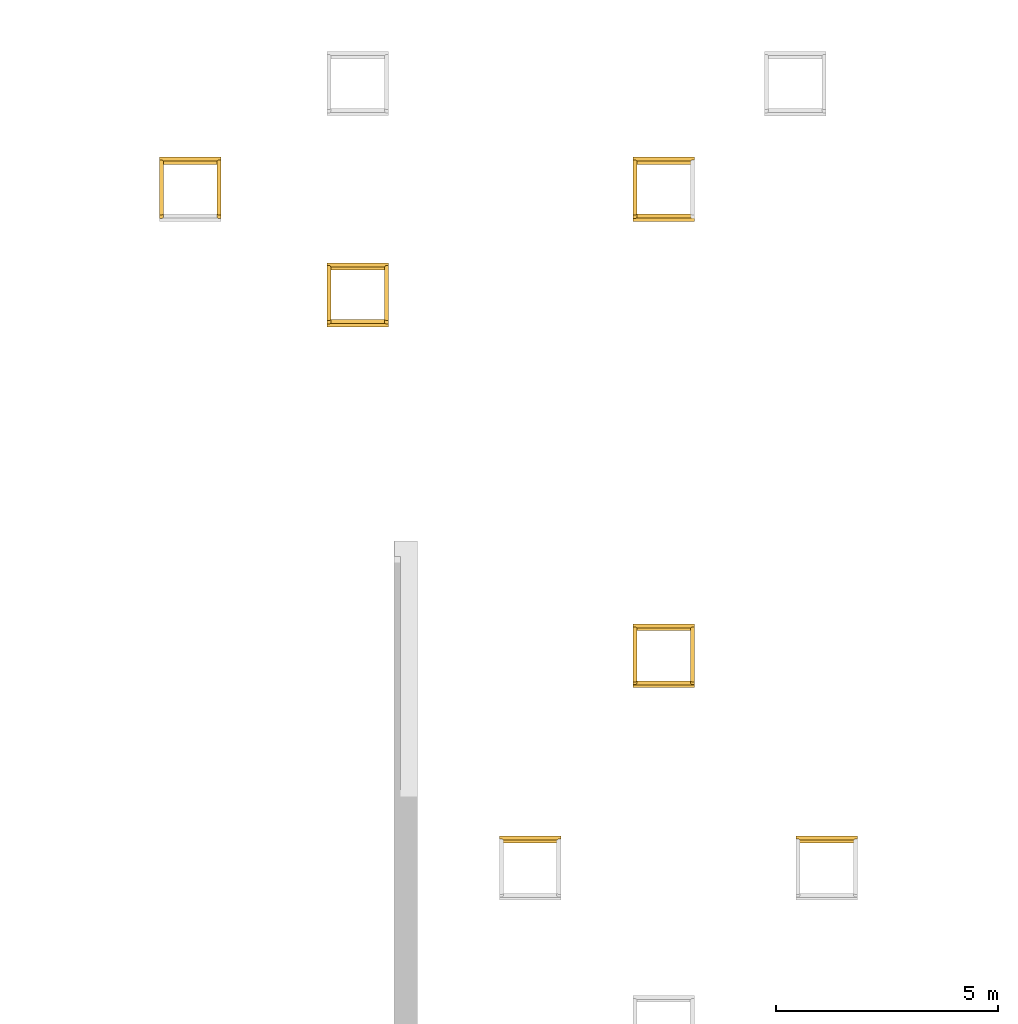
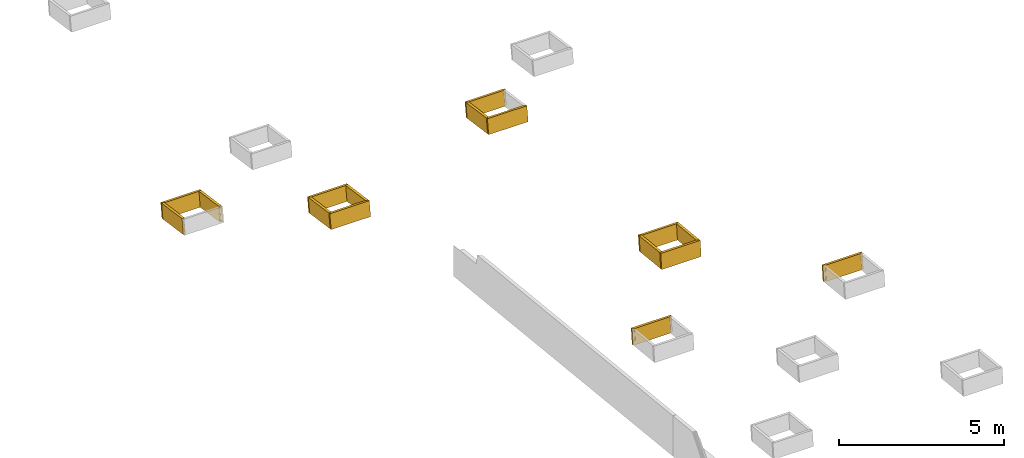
# One storey, part 19 of 23: 16 coverings.
"""IFC2X3 building model written with IfcOpenShell, lengths in millimetres."""

from ifc_helpers import new_model, entity, si_unit, converted_unit, derived_unit, money_unit, direction, frame, origin_with_axes, place, context, subcontext, project, spatial, faceted_brep, material, material_list, type_object, element, save


model = new_model("IFC2X3")

# Units and contexts
model_context = context("Model", 3, precision=0.01, world=origin_with_axes(), true_north=direction((0.0, 1.0)))
body_context = subcontext(model_context, "Body", "Model", "MODEL_VIEW")
ifc_project = project(units=[si_unit("LENGTHUNIT", "METRE", prefix="MILLI"), si_unit("AREAUNIT", "SQUARE_METRE"), si_unit("VOLUMEUNIT", "CUBIC_METRE"), converted_unit("PLANEANGLEUNIT", "DEGREE", entity("IfcPlaneAngleMeasure", 0.0174532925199), si_unit("PLANEANGLEUNIT", "RADIAN"), dimensions=[0, 0, 0, 0, 0, 0, 0]), si_unit("SOLIDANGLEUNIT", "STERADIAN"), money_unit("EUR"), converted_unit("TIMEUNIT", "Year", entity("IfcTimeMeasure", 31556926.0), si_unit("TIMEUNIT", "SECOND"), dimensions=[0, 0, 1, 0, 0, 0, 0]), si_unit("MASSUNIT", "GRAM", prefix="KILO"), si_unit("THERMODYNAMICTEMPERATUREUNIT", "DEGREE_CELSIUS"), si_unit("LUMINOUSINTENSITYUNIT", "LUMEN"), si_unit("ENERGYUNIT", "JOULE", prefix="MEGA"), derived_unit("THERMALCONDUCTANCEUNIT", [(si_unit("POWERUNIT", "WATT"), 1), (si_unit("LENGTHUNIT", "METRE"), -1), (si_unit("THERMODYNAMICTEMPERATUREUNIT", "KELVIN"), -1)]), derived_unit("SPECIFICHEATCAPACITYUNIT", [(si_unit("ENERGYUNIT", "JOULE"), 1), (si_unit("MASSUNIT", "GRAM", prefix="KILO"), -1), (si_unit("THERMODYNAMICTEMPERATUREUNIT", "KELVIN"), -1)]), derived_unit("MASSDENSITYUNIT", [(si_unit("MASSUNIT", "GRAM", prefix="KILO"), 1), (si_unit("VOLUMEUNIT", "CUBIC_METRE"), -1)])], contexts=[model_context])

# Site, building, storey
site_placement = place(None, origin_with_axes())
site = spatial("IfcSite", under=ifc_project, at=site_placement, Name="L.Koidula tn 11b", CompositionType="ELEMENT")
building_placement = place(site_placement, origin_with_axes())
building = spatial("IfcBuilding", under=site, at=building_placement, Name="Rakvere Riigigümnaasium", CompositionType="ELEMENT")
storey_placement = place(building_placement, frame((0.0, 0.0, 7440.0), z_axis=(0.0, 0.0, 1.0), x_axis=(1.0, 0.0, 0.0)))
storey = spatial("IfcBuildingStorey", under=building, at=storey_placement, Name="3.korrus +7,44", CompositionType="ELEMENT", Elevation=7440.0)

# Coverings
ifc_material_1 = material(Name="SKR-02_Kipsplaat")
ifc_material_2 = material(Name="mineraalvill+karkass")
ifc_material_list_1 = material_list([ifc_material_1, ifc_material_1, ifc_material_2])
covering_type = type_object("IfcCoveringType", Name="SA-2xkips 91", PredefinedType="NOTDEFINED")
covering_1_placement = place(storey_placement, frame((45308.9710298, 37654.4230684, 732.914592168), z_axis=(0.0, 0.0, 1.0), x_axis=(-1.0, 0.0, 0.0)))
element("IfcCovering", 1, at=covering_1_placement, inside=storey, type_object=covering_type, material=ifc_material_list_1, Name="Ava-pinnakate", PredefinedType="NOTDEFINED", context=body_context, shape_type="Brep", body=[
    faceted_brep([(1212.48952878, -72.5823962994, 570.990718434), (-12.5103865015, -72.5823962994, 570.990718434), (-12.5019104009, -13.3494319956, 7.42670834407), (1212.4980854, -13.3494319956, 7.42670834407), (-12.5086075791, -60.1508726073, 572.297324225), (1212.4913246, -60.1508726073, 572.297324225), (-12.5001314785, -0.917908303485, 8.73331413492), (1212.49988122, -0.917908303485, 8.73331413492)], [[[0, 1, 2, 3]], [[4, 1, 0, 5]], [[1, 4, 6, 2]], [[7, 3, 2, 6]], [[5, 0, 3, 7]], [[4, 5, 7, 6]]]),
    faceted_brep([(1224.98773309, -85.0139199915, 569.684112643), (-25.0121655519, -85.0139199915, 569.684112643), (-25.0036894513, -25.7809556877, 6.12010255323), (1224.99628971, -25.7809556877, 6.12010255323), (-25.0103866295, -72.5823962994, 570.990718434), (1224.98952891, -72.5823962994, 570.990718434), (-25.0019105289, -13.3494319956, 7.42670834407), (1224.99808553, -13.3494319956, 7.42670834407)], [[[0, 1, 2, 3]], [[4, 1, 0, 5]], [[1, 4, 6, 2]], [[7, 3, 2, 6]], [[5, 0, 3, 7]], [[4, 5, 7, 6]]]),
    faceted_brep([(1290.97825183, -150.652365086, 562.785234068), (-91.0215589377, -150.652365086, 562.785234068), (-91.0130945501, -91.5012534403, 0.0), (1290.98679663, -91.5012534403, 0.0), (-91.0121662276, -85.0139199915, 569.684112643), (1290.98773377, -85.0139199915, 569.684112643), (-91.003690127, -25.7809556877, 6.12010255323), (-91.0120225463, -84.0098418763, 0.0), (1290.98787882, -84.0098418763, 0.0), (1290.9962904, -25.7809556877, 6.12010255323)], [[[0, 1, 2, 3]], [[4, 1, 0, 5]], [[1, 4, 6, 7, 2]], [[2, 7, 8, 3]], [[5, 0, 3, 8, 9]], [[4, 5, 9, 6]], [[9, 8, 7, 6]]]),
])
covering_2_placement = place(storey_placement, frame((38632.9795489, 37654.3237413, 733.025929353), z_axis=(0.0, 0.0, 1.0), x_axis=(-1.0, 0.0, 0.0)))
element("IfcCovering", 2, at=covering_2_placement, inside=storey, type_object=covering_type, material=ifc_material_list_1, Name="Ava-pinnakate", PredefinedType="NOTDEFINED", context=body_context, shape_type="Brep", body=[
    faceted_brep([(1212.48953029, -72.5719074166, 570.890923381), (-12.5103850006, -72.5719074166, 570.890923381), (-12.5019089, -13.3389431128, 7.32691329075), (1212.49808691, -13.3389431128, 7.32691329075), (-12.5086060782, -60.1403837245, 572.197529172), (1212.49132611, -60.1403837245, 572.197529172), (-12.5001299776, -0.90741942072, 8.63351908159), (1212.49988274, -0.90741942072, 8.63351908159)], [[[0, 1, 2, 3]], [[4, 1, 0, 5]], [[1, 4, 6, 2]], [[7, 3, 2, 6]], [[5, 0, 3, 7]], [[4, 5, 7, 6]]]),
    faceted_brep([(1224.9877346, -85.0034311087, 569.58431759), (-25.0121640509, -85.0034311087, 569.58431759), (-25.0036879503, -25.7704668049, 6.0203074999), (1224.99629122, -25.7704668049, 6.0203074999), (-25.0103851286, -72.5719074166, 570.890923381), (1224.98953042, -72.5719074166, 570.890923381), (-25.001909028, -13.3389431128, 7.32691329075), (1224.99808705, -13.3389431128, 7.32691329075)], [[[0, 1, 2, 3]], [[4, 1, 0, 5]], [[1, 4, 6, 2]], [[7, 3, 2, 6]], [[5, 0, 3, 7]], [[4, 5, 7, 6]]]),
    faceted_brep([(1290.97825335, -150.641876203, 562.685439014), (-91.0215574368, -150.641876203, 562.685439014), (-91.0130945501, -91.5012534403, 0.0), (1290.98679663, -91.5012534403, 0.0), (-91.0121647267, -85.0034311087, 569.58431759), (1290.98773529, -85.0034311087, 569.58431759), (-91.0036886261, -25.7704668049, 6.0203074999), (-91.0118851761, -83.0498664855, 0.0), (1290.9880175, -83.0498664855, 0.0), (1290.99629191, -25.7704668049, 6.0203074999)], [[[0, 1, 2, 3]], [[4, 1, 0, 5]], [[1, 4, 6, 7, 2]], [[2, 7, 8, 3]], [[5, 0, 3, 8, 9]], [[4, 5, 9, 6]], [[9, 8, 7, 6]]]),
])
covering_3_placement = place(storey_placement, frame((34754.6108164, 50531.4179768, -848.801225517), z_axis=(0.0, 0.0, 1.0), x_axis=(-1.0, 0.0, 0.0)))
element("IfcCovering", 3, at=covering_3_placement, inside=storey, type_object=covering_type, material=ifc_material_list_1, Name="Ava-pinnakate", PredefinedType="NOTDEFINED", context=body_context, shape_type="Brep", body=[
    faceted_brep([(-12.5, -1.46099309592, 10.26547255), (-12.5, -13.8362888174, 8.5042071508), (-12.5, -91.05850016, 551.09574506), (-12.5, -78.6832044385, 552.85701046), (1212.5, -13.8362888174, 8.50420715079), (1212.5, -1.46099309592, 10.26547255), (1212.5, -91.05850016, 551.09574506), (1212.5, -78.6832044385, 552.85701046)], [[[0, 1, 2, 3]], [[4, 1, 0, 5]], [[1, 4, 6, 2]], [[7, 3, 2, 6]], [[5, 0, 3, 7]], [[4, 5, 7, 6]]]),
    faceted_brep([(-25.0, -13.8362888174, 8.50420715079), (-25.0, -26.2115845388, 6.74294175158), (-25.0, -103.433795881, 549.334479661), (-25.0, -91.05850016, 551.09574506), (1225.0, -26.2115845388, 6.74294175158), (1225.0, -13.8362888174, 8.5042071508), (1225.0, -103.433795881, 549.334479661), (1225.0, -91.05850016, 551.09574506)], [[[0, 1, 2, 3]], [[4, 1, 0, 5]], [[1, 4, 6, 2]], [[7, 3, 2, 6]], [[5, 0, 3, 7]], [[4, 5, 7, 6]]]),
    faceted_brep([(-91.0, -26.2115845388, 6.74294175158), (-91.0, -73.5899627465, 0.0), (-91.0, -91.9169954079, 0.0), (-91.0, -168.775357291, 540.034998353), (-91.0, -103.433795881, 549.334479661), (1291.0, -73.5899627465, 0.0), (1291.0, -26.2115845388, 6.74294175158), (1291.0, -91.9169954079, 0.0), (1291.0, -168.775357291, 540.034998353), (1291.0, -103.433795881, 549.334479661)], [[[0, 1, 2, 3, 4]], [[5, 1, 0, 6]], [[1, 5, 7, 2]], [[7, 8, 3, 2]], [[9, 4, 3, 8]], [[6, 0, 4, 9]], [[5, 6, 9, 8, 7]]]),
])
covering_4_placement = place(storey_placement, frame((33554.6108164, 49343.7086412, -680.805633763), z_axis=(0.0, 0.0, 1.0), x_axis=(1.0, 0.0, 0.0)))
element("IfcCovering", 4, at=covering_4_placement, inside=storey, type_object=covering_type, material=ifc_material_list_1, Name="Ava-pinnakate", PredefinedType="NOTDEFINED", context=body_context, shape_type="Brep", body=[
    faceted_brep([(1212.5, -10.7691605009, 13.0465596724), (1212.5, 1.60613522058, 11.2852942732), (1212.5, 78.8283465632, 553.876832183), (1212.5, 66.4530508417, 555.638097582), (-12.5, 1.60613522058, 11.2852942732), (-12.5, -10.7691605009, 13.0465596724), (-12.5, 78.8283465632, 553.876832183), (-12.5, 66.4530508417, 555.638097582)], [[[0, 1, 2, 3]], [[4, 1, 0, 5]], [[1, 4, 6, 2]], [[7, 3, 2, 6]], [[5, 0, 3, 7]], [[4, 5, 7, 6]]]),
    faceted_brep([(1225.0, -23.1444562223, 14.8078250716), (1225.0, -10.7691605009, 13.0465596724), (1225.0, 66.4530508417, 555.638097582), (1225.0, 54.0777551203, 557.399362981), (-25.0, -10.7691605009, 13.0465596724), (-25.0, -23.1444562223, 14.8078250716), (-25.0, 66.4530508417, 555.638097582), (-25.0, 54.0777551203, 557.399362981)], [[[0, 1, 2, 3]], [[4, 1, 0, 5]], [[1, 4, 6, 2]], [[7, 3, 2, 6]], [[5, 0, 3, 7]], [[4, 5, 7, 6]]]),
    faceted_brep([(1291.0, -88.4860176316, 24.1073063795), (1291.0, -23.1444562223, 14.8078250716), (1291.0, 54.0777551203, 557.399362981), (1291.0, -11.263806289, 566.698844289), (-91.0, -23.1444562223, 14.8078250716), (-91.0, -88.4860176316, 24.1073063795), (-91.0, 54.0777551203, 557.399362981), (-91.0, -11.263806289, 566.698844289)], [[[0, 1, 2, 3]], [[4, 1, 0, 5]], [[1, 4, 6, 2]], [[7, 3, 2, 6]], [[5, 0, 3, 7]], [[4, 5, 7, 6]]]),
])
covering_5_placement = place(storey_placement, frame((30993.1258676, 52900.188567, -1237.23479765), z_axis=(0.0, 0.0, 1.0), x_axis=(-1.0, 0.0, 0.0)))
element("IfcCovering", 5, at=covering_5_placement, inside=storey, type_object=covering_type, material=ifc_material_list_1, Name="Ava-pinnakate", PredefinedType="NOTDEFINED", context=body_context, shape_type="Brep", body=[
    faceted_brep([(1212.48582587, -98.2156813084, 601.384720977), (-12.5140545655, -98.2156813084, 601.384720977), (-12.5030042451, -20.9934699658, 58.7931830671), (1212.49698116, -20.9934699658, 58.7931830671), (-12.5122836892, -85.8403855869, 603.145986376), (1212.48761357, -85.8403855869, 603.145986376), (-12.5012333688, -8.61817424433, 60.5544484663), (1212.49876886, -8.61817424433, 60.5544484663)], [[[0, 1, 2, 3]], [[4, 1, 0, 5]], [[1, 4, 6, 2]], [[7, 3, 2, 6]], [[5, 0, 3, 7]], [[4, 5, 7, 6]]]),
    faceted_brep([(1224.9840383, -110.59097703, 599.623455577), (-25.0158255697, -110.59097703, 599.623455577), (-25.0047752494, -33.3687656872, 57.0319176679), (1224.9951936, -33.3687656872, 57.0319176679), (-25.0140546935, -98.2156813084, 601.384720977), (1224.985826, -98.2156813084, 601.384720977), (-25.0030043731, -20.9934699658, 58.7931830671), (1224.99698129, -20.9934699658, 58.7931830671)], [[[0, 1, 2, 3]], [[4, 1, 0, 5]], [[1, 4, 6, 2]], [[7, 3, 2, 6]], [[5, 0, 3, 7]], [[4, 5, 7, 6]]]),
    faceted_brep([(1290.97459993, -175.932538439, 590.323974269), (-91.0251764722, -175.932538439, 590.323974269), (-91.0141261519, -98.7103270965, 47.73243636), (1290.98575523, -98.7103270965, 47.73243636), (-91.0158262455, -110.59097703, 599.623455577), (1290.98403899, -110.59097703, 599.623455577), (-91.0047759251, -33.3687656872, 57.0319176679), (1290.99519428, -33.3687656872, 57.0319176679)], [[[0, 1, 2, 3]], [[4, 1, 0, 5]], [[1, 4, 6, 2]], [[7, 3, 2, 6]], [[5, 0, 3, 7]], [[4, 5, 7, 6]]]),
])
covering_6_placement = place(storey_placement, frame((29793.1258539, 52900.188567, -1313.32276021), z_axis=(0.0, 0.0, 1.0), x_axis=(-0.000144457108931, -0.999999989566, 0.0)))
element("IfcCovering", 6, at=covering_6_placement, inside=storey, type_object=covering_type, material=ifc_material_list_1, Name="Ava-pinnakate", PredefinedType="NOTDEFINED", context=body_context, shape_type="Brep", body=[
    faceted_brep([(-85.8385807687, -12.5, 679.233948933), (-85.8403864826, 4.73942662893e-07, 679.233948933), (-8.61817433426, 4.75814943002e-08, 136.642411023), (-8.61636862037, -12.5, 136.642411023), (1101.72381935, 1.52517998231e-08, 848.24936241), (1101.72562507, -12.5, 848.24936241), (1178.9460315, -9.98063853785e-07, 305.657824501), (1178.94783722, -12.5, 305.657824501)], [[[0, 1, 2, 3]], [[4, 1, 0, 5]], [[1, 4, 6, 2]], [[7, 3, 2, 6]], [[5, 0, 3, 7]], [[4, 5, 7, 6]]]),
    faceted_brep([(-98.2120709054, -24.9999999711, 677.472683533), (-98.2138766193, -12.5, 677.472683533), (-20.9916644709, -12.5, 134.881145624), (-20.989858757, -25.0000005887, 134.881145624), (1114.10092092, -12.5, 850.010627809), (1114.10272663, -24.9999999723, 850.010627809), (1191.32313307, -12.5, 307.4190899), (1191.32493878, -24.9999987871, 307.4190899)], [[[0, 1, 2, 3]], [[4, 1, 0, 5]], [[1, 4, 6, 2]], [[7, 3, 2, 6]], [[5, 0, 3, 7]], [[4, 5, 7, 6]]]),
    faceted_brep([(-110.577832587, -91.0, 675.711418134), (-110.587366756, -24.9999999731, 675.711418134), (-33.3651546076, -25.0000005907, 133.119880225), (-33.3556204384, -91.0, 133.119880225), (1126.47802248, -24.9999999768, 851.771893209), (1126.48755665, -91.0, 851.771893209), (1203.70023463, -24.999998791, 309.180355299), (1203.7097688, -91.0, 309.180355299)], [[[0, 1, 2, 3]], [[4, 1, 0, 5]], [[1, 4, 6, 2]], [[7, 3, 2, 6]], [[5, 0, 3, 7]], [[4, 5, 7, 6]]]),
])
ifc_material_list_2 = material_list([ifc_material_2, ifc_material_1, ifc_material_1])
covering_7_placement = place(storey_placement, frame((30993.1258676, 52900.188567, -1313.32276021), z_axis=(0.0, 0.0, 1.0), x_axis=(-0.000143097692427, -0.999999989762, 0.0)))
element("IfcCovering", 7, at=covering_7_placement, inside=storey, type_object=covering_type, material=ifc_material_list_2, Name="Ava-pinnakate", PredefinedType="NOTDEFINED", context=body_context, shape_type="Brep", body=[
    faceted_brep([(-110.594555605, 25.0000004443, 675.711418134), (-110.604000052, 91.0, 675.711418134), (-33.381787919, 91.0, 133.119880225), (-33.3723434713, 25.0000006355, 133.119880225), (1126.46138895, 91.0, 851.771893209), (1126.47083339, 25.0000000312, 851.771893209), (1203.68360108, 91.0, 309.180355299), (1203.69304553, 25.0000004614, 309.180355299)], [[[0, 1, 2, 3]], [[4, 1, 0, 5]], [[1, 4, 6, 2]], [[7, 3, 2, 6]], [[5, 0, 3, 7]], [[4, 5, 7, 6]]]),
    faceted_brep([(-98.2174710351, 12.5, 677.472683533), (-98.2192597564, 25.0000004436, 677.472683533), (-20.9970476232, 25.0000006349, 134.881145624), (-20.9952589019, 12.5, 134.881145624), (1114.09553755, 25.0000000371, 850.010627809), (1114.09732627, 12.5, 850.010627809), (1191.31774968, 25.0000004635, 307.4190899), (1191.3195384, 12.5, 307.4190899)], [[[0, 1, 2, 3]], [[4, 1, 0, 5]], [[1, 4, 6, 2]], [[7, 3, 2, 6]], [[5, 0, 3, 7]], [[4, 5, 7, 6]]]),
    faceted_brep([(-85.8403864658, 0.0, 679.233948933), (-85.8420887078, 12.5, 679.23396124), (-8.61837712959, 12.5, 136.642636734), (-8.61817433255, 0.0, 136.642411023), (1101.72206392, 12.5, 848.249367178), (1101.72381914, 0.0, 848.24936241), (1178.94573955, 12.5, 305.658037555), (1178.94603127, 0.0, 305.657824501)], [[[0, 1, 2, 3]], [[4, 1, 0, 5]], [[1, 4, 6, 2]], [[7, 3, 2, 6]], [[5, 0, 3, 7]], [[4, 5, 7, 6]]]),
])
covering_8_placement = place(storey_placement, frame((41636.541672, 52900.1885928, -1237.23480128), z_axis=(0.0, 0.0, 1.0), x_axis=(-1.0, 0.0, 0.0)))
element("IfcCovering", 8, at=covering_8_placement, inside=storey, type_object=covering_type, material=ifc_material_list_1, Name="Ava-pinnakate", PredefinedType="NOTDEFINED", context=body_context, shape_type="Brep", body=[
    faceted_brep([(1212.48582587, -98.215681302, 601.384720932), (-12.5140545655, -98.215681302, 601.384720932), (-12.5030042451, -20.9934699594, 58.793183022), (1212.49698116, -20.9934699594, 58.793183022), (-12.5122836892, -85.8403855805, 603.145986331), (1212.48761357, -85.8403855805, 603.145986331), (-12.5012333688, -8.61817423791, 60.5544484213), (1212.49876886, -8.61817423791, 60.5544484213)], [[[0, 1, 2, 3]], [[4, 1, 0, 5]], [[1, 4, 6, 2]], [[7, 3, 2, 6]], [[5, 0, 3, 7]], [[4, 5, 7, 6]]]),
    faceted_brep([(1224.9840383, -110.590977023, 599.623455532), (-25.0158255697, -110.590977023, 599.623455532), (-25.0047752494, -33.3687656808, 57.0319176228), (1224.9951936, -33.3687656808, 57.0319176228), (-25.0140546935, -98.215681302, 601.384720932), (1224.985826, -98.215681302, 601.384720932), (-25.0030043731, -20.9934699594, 58.793183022), (1224.99698129, -20.9934699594, 58.793183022)], [[[0, 1, 2, 3]], [[4, 1, 0, 5]], [[1, 4, 6, 2]], [[7, 3, 2, 6]], [[5, 0, 3, 7]], [[4, 5, 7, 6]]]),
    faceted_brep([(1290.97459993, -175.932538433, 590.323974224), (-91.0251764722, -175.932538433, 590.323974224), (-91.0141261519, -98.7103270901, 47.7324363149), (1290.98575523, -98.7103270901, 47.7324363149), (-91.0158262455, -110.590977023, 599.623455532), (1290.98403899, -110.590977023, 599.623455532), (-91.0047759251, -33.3687656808, 57.0319176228), (1290.99519428, -33.3687656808, 57.0319176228)], [[[0, 1, 2, 3]], [[4, 1, 0, 5]], [[1, 4, 6, 2]], [[7, 3, 2, 6]], [[5, 0, 3, 7]], [[4, 5, 7, 6]]]),
])
covering_9_placement = place(storey_placement, frame((40436.3693982, 51707.7235593, -1102.65448535), z_axis=(0.0, 0.0, 1.0), x_axis=(1.0, 0.0, 0.0)))
element("IfcCovering", 9, at=covering_9_placement, inside=storey, type_object=covering_type, material=ifc_material_list_1, Name="Ava-pinnakate", PredefinedType="NOTDEFINED", context=body_context, shape_type="Brep", body=[
    faceted_brep([(-12.4868919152, 90.7412257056, 637.581083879), (1212.51461973, 90.7412257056, 637.581083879), (1212.50356941, 13.519014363, 94.9895459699), (-12.4980472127, 13.519014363, 94.9895459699), (1212.51284886, 78.3659299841, 639.342349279), (-12.4886796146, 78.3659299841, 639.342349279), (1212.50179854, 1.14371864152, 96.7508113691), (-12.4998349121, 1.14371864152, 96.7508113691)], [[[0, 1, 2, 3]], [[4, 1, 0, 5]], [[1, 4, 6, 2]], [[7, 3, 2, 6]], [[5, 0, 3, 7]], [[4, 5, 7, 6]]]),
    faceted_brep([(-24.988679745, 78.3659299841, 639.342349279), (1225.01284899, 78.3659299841, 639.342349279), (1225.00179867, 1.14371864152, 96.7508113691), (-24.9998350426, 1.14371864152, 96.7508113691), (1225.01107811, 65.9906342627, 641.103614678), (-24.9904674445, 65.9906342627, 641.103614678), (1225.00002779, -11.2315770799, 98.5120767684), (-25.001622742, -11.2315770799, 98.5120767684)], [[[0, 1, 2, 3]], [[4, 1, 0, 5]], [[1, 4, 6, 2]], [[7, 3, 2, 6]], [[5, 0, 3, 7]], [[4, 5, 7, 6]]]),
    faceted_brep([(-90.9904681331, 65.9906342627, 641.103614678), (1291.01107879, 65.9906342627, 641.103614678), (1291.00002847, -11.2315770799, 98.5120767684), (-91.0016234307, -11.2315770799, 98.5120767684), (1291.00172856, 0.649072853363, 650.403095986), (-90.9999071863, 0.649072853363, 650.403095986), (1290.99067824, -76.5731384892, 107.811558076), (-91.0110624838, -76.5731384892, 107.811558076)], [[[0, 1, 2, 3]], [[4, 1, 0, 5]], [[1, 4, 6, 2]], [[7, 3, 2, 6]], [[5, 0, 3, 7]], [[4, 5, 7, 6]]]),
])
covering_10_placement = place(storey_placement, frame((40436.5416583, 52900.1885928, -1313.32276384), z_axis=(0.0, 0.0, 1.0), x_axis=(-0.000144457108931, -0.999999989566, 0.0)))
element("IfcCovering", 10, at=covering_10_placement, inside=storey, type_object=covering_type, material=ifc_material_list_1, Name="Ava-pinnakate", PredefinedType="NOTDEFINED", context=body_context, shape_type="Brep", body=[
    faceted_brep([(-85.8385807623, -12.5, 679.233948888), (-85.8403864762, 2.92367019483e-07, 679.233948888), (-8.61817432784, 2.93596258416e-08, 136.642410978), (-8.61636861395, -12.5, 136.642410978), (1101.72381936, 0.0, 848.249362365), (1101.72562508, -12.5, 848.249362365), (1178.94603151, -1.00032337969e-06, 305.657824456), (1178.94783722, -12.5, 305.657824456)], [[[0, 1, 2, 3]], [[4, 1, 0, 5]], [[1, 4, 6, 2]], [[7, 3, 2, 6]], [[5, 0, 3, 7]], [[4, 5, 7, 6]]]),
    faceted_brep([(-98.2120708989, -25.0000006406, 677.472683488), (-98.2138766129, -12.5, 677.472683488), (-20.9916644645, -12.5, 134.881145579), (-20.9898587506, -25.0000006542, 134.881145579), (1114.10092093, -12.5, 850.010627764), (1114.10272664, -25.0000000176, 850.010627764), (1191.32313307, -12.5, 307.419089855), (1191.32493879, -24.999998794, 307.419089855)], [[[0, 1, 2, 3]], [[4, 1, 0, 5]], [[1, 4, 6, 2]], [[7, 3, 2, 6]], [[5, 0, 3, 7]], [[4, 5, 7, 6]]]),
    faceted_brep([(-110.57783258, -91.0, 675.711418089), (-110.587366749, -25.0000006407, 675.711418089), (-33.3651546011, -25.0000006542, 133.11988018), (-33.3556204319, -91.0, 133.11988018), (1126.47802249, -25.0000000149, 851.771893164), (1126.48755666, -91.0, 851.771893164), (1203.70023464, -24.9999987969, 309.180355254), (1203.70976881, -91.0, 309.180355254)], [[[0, 1, 2, 3]], [[4, 1, 0, 5]], [[1, 4, 6, 2]], [[7, 3, 2, 6]], [[5, 0, 3, 7]], [[4, 5, 7, 6]]]),
])
covering_11_placement = place(storey_placement, frame((41636.7140291, 42428.2850036, 231.215416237), z_axis=(0.0, 0.0, 1.0), x_axis=(-1.0, 0.0, 0.0)))
element("IfcCovering", 11, at=covering_11_placement, inside=storey, type_object=covering_type, material=ifc_material_list_1, Name="Ava-pinnakate", PredefinedType="NOTDEFINED", context=body_context, shape_type="Brep", body=[
    faceted_brep([(-12.5001306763, -0.912301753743, 8.67997137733), (-12.5019095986, -13.3438254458, 7.37336558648), (-12.5103856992, -72.5767897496, 570.937375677), (-12.5086067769, -60.1452660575, 572.243981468), (1212.49808621, -13.3438254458, 7.37336558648), (1212.49988203, -0.912301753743, 8.67997137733), (1212.48952959, -72.5767897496, 570.937375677), (1212.49132541, -60.1452660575, 572.243981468)], [[[0, 1, 2, 3]], [[4, 1, 0, 5]], [[1, 4, 6, 2]], [[7, 3, 2, 6]], [[5, 0, 3, 7]], [[4, 5, 7, 6]]]),
    faceted_brep([(-25.0019097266, -13.3438254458, 7.37336558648), (-25.003688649, -25.7753491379, 6.06675979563), (-25.0121647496, -85.0083134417, 569.630769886), (-25.0103858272, -72.5767897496, 570.937375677), (1224.99629052, -25.7753491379, 6.06675979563), (1224.99808634, -13.3438254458, 7.37336558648), (1224.9877339, -85.0083134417, 569.630769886), (1224.98952972, -72.5767897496, 570.937375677)], [[[0, 1, 2, 3]], [[4, 1, 0, 5]], [[1, 4, 6, 2]], [[7, 3, 2, 6]], [[5, 0, 3, 7]], [[4, 5, 7, 6]]]),
    faceted_brep([(-91.0036893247, -25.7753491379, 6.06675979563), (-91.0119491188, -83.4967128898, 0.0), (-91.0130945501, -91.5012534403, 0.0), (-91.0215581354, -150.646758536, 562.73189131), (-91.0121654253, -85.0083134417, 569.630769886), (1290.98795295, -83.4967128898, 0.0), (1290.99629121, -25.7753491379, 6.06675979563), (1290.98679663, -91.5012534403, 0.0), (1290.97825264, -150.646758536, 562.73189131), (1290.98773458, -85.0083134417, 569.630769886)], [[[0, 1, 2, 3, 4]], [[5, 1, 0, 6]], [[1, 5, 7, 2]], [[7, 8, 3, 2]], [[9, 4, 3, 8]], [[6, 0, 4, 9]], [[5, 6, 9, 8, 7]]]),
])
covering_12_placement = place(storey_placement, frame((40436.5417554, 41235.81997, 365.795732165), z_axis=(0.0, 0.0, 1.0), x_axis=(1.0, 0.0, 0.0)))
element("IfcCovering", 12, at=covering_12_placement, inside=storey, type_object=covering_type, material=ifc_material_list_1, Name="Ava-pinnakate", PredefinedType="NOTDEFINED", context=body_context, shape_type="Brep", body=[
    faceted_brep([(1212.49984894, -12.4805214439, 0.840423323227), (1212.50099316, -4.48442765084, 0.0), (1212.50163487, 0.0, 0.0), (1212.51010396, 59.1839698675, 563.097827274), (1212.50832504, 46.75244286, 564.404433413), (-12.5006479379, -4.48442765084, 0.0), (-12.5018030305, -12.4805214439, 0.840423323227), (-12.5000001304, 0.0, 0.0), (-12.4914505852, 59.1839698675, 563.097827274), (-12.4932464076, 46.7524428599, 564.404433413)], [[[0, 1, 2, 3, 4]], [[5, 1, 0, 6]], [[1, 5, 7, 2]], [[7, 8, 3, 2]], [[9, 4, 3, 8]], [[6, 0, 4, 9]], [[5, 6, 9, 8, 7]]]),
    faceted_brep([(1224.99807068, -24.912045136, 2.14702911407), (1224.99984961, -12.4805214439, 0.840423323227), (1225.00832523, 46.75244286, 564.404433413), (1225.00654631, 34.3209191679, 565.711039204), (-25.001801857, -12.4805214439, 0.840423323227), (-25.003597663, -24.912045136, 2.14702911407), (-24.9932464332, 46.7524428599, 564.404433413), (-24.9950422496, 34.3209191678, 565.711039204)], [[[0, 1, 2, 3]], [[4, 1, 0, 5]], [[1, 4, 6, 2]], [[7, 3, 2, 6]], [[5, 0, 3, 7]], [[4, 5, 7, 6]]]),
    faceted_brep([(1290.98867742, -90.5504902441, 9.04590769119), (1290.99807013, -24.912045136, 2.14702911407), (1291.00654623, 34.3209191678, 565.711039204), (1290.99715352, -31.3175268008, 572.609917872), (-91.0035996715, -24.912045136, 2.14702911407), (-91.0130816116, -90.5504902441, 9.04590769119), (-90.9950430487, 34.3209191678, 565.711039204), (-91.0045249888, -31.3175268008, 572.609917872)], [[[0, 1, 2, 3]], [[4, 1, 0, 5]], [[1, 4, 6, 2]], [[7, 3, 2, 6]], [[5, 0, 3, 7]], [[4, 5, 7, 6]]]),
])
covering_13_placement = place(storey_placement, frame((40436.7140154, 42428.2850036, 155.12745368), z_axis=(0.0, 0.0, 1.0), x_axis=(-0.000144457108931, -0.999999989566, 0.0)))
element("IfcCovering", 13, at=covering_13_placement, inside=storey, type_object=covering_type, material=ifc_material_list_1, Name="Ava-pinnakate", PredefinedType="NOTDEFINED", context=body_context, shape_type="Brep", body=[
    faceted_brep([(1192.46504601, -1.17546505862e-06, 210.196946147), (-0.912301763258, -8.47677483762e-09, 84.7679339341), (-60.145266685, -5.58685542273e-07, 648.331944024), (1133.28107553, -1.74011915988e-07, 773.76610576), (1192.46504601, -1.17546505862e-06, 210.668278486), (-0.910496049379, -12.5, 84.7679339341), (1192.46684769, -12.4999999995, 210.196945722), (-60.1434609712, -12.5, 648.331944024), (1133.28288124, -12.4999999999, 773.76610576), (1192.46685173, -12.4999999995, 210.668278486)], [[[0, 1, 2, 3, 4]], [[5, 1, 0, 6]], [[1, 5, 7, 2]], [[8, 3, 2, 7]], [[4, 3, 8, 9]], [[6, 0, 4, 9]], [[5, 6, 9, 8, 7]]]),
    faceted_brep([(1192.46504601, -12.5, 210.196756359), (-13.3420198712, -12.5, 83.4613281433), (-72.574984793, -12.5, 647.025338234), (1145.71440838, -12.5, 775.072711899), (1204.9473733, -12.5, 211.508701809), (1196.95127943, -12.5, 210.668278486), (1192.46504601, -12.5, 210.668278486), (-13.3402141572, -25.0000006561, 83.4613281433), (1192.46504601, -24.9999985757, 210.196566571), (-72.573179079, -25.0000006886, 647.025338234), (1145.71621409, -24.9999998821, 775.072711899), (1204.94917902, -24.9999985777, 211.508701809), (1196.95308514, -24.9999985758, 210.668278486), (1192.46504601, -24.9999985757, 210.668278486)], [[[0, 1, 2, 3, 4, 5, 6]], [[7, 1, 0, 8]], [[1, 7, 9, 2]], [[10, 3, 2, 9]], [[11, 4, 3, 10]], [[12, 5, 4, 11]], [[5, 12, 13, 6]], [[8, 0, 6, 13]], [[7, 8, 13, 12, 11, 10, 9]]]),
    faceted_brep([(1192.46504601, -24.9999985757, 210.196566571), (-25.771737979, -25.000000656, 82.1547223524), (-85.0047029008, -25.0000006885, 645.718732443), (1158.14773792, -24.9999998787, 776.37931769), (1217.38070284, -24.9999985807, 212.8153076), (1196.95308514, -24.9999985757, 210.668278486), (1192.46504601, -24.9999985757, 210.668278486), (-25.7622038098, -91.0, 82.1547223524), (1192.46504601, -91.0, 210.195564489), (-84.9951687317, -91.0, 645.718732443), (1158.15727208, -91.0, 776.37931769), (1217.39023701, -91.0, 212.8153076), (1196.96261931, -91.0, 210.668278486), (1192.46504601, -91.0, 210.668278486)], [[[0, 1, 2, 3, 4, 5, 6]], [[7, 1, 0, 8]], [[1, 7, 9, 2]], [[10, 3, 2, 9]], [[11, 4, 3, 10]], [[12, 5, 4, 11]], [[5, 12, 13, 6]], [[8, 0, 6, 13]], [[7, 8, 13, 12, 11, 10, 9]]]),
])
covering_14_placement = place(storey_placement, frame((41636.7140291, 42428.2850036, 155.12745368), z_axis=(0.0, 0.0, 1.0), x_axis=(-0.000143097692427, -0.999999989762, 0.0)))
element("IfcCovering", 14, at=covering_14_placement, inside=storey, type_object=covering_type, material=ifc_material_list_2, Name="Ava-pinnakate", PredefinedType="NOTDEFINED", context=body_context, shape_type="Brep", body=[
    faceted_brep([(1192.46504578, 90.9999988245, 210.198314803), (-25.788371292, 91.0, 82.1547223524), (-85.0213362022, 91.0, 645.718732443), (1158.13110437, 90.9999993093, 776.37931769), (1217.36406928, 90.9999993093, 212.8153076), (1196.93645159, 90.9999989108, 210.668278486), (1192.46504578, 90.9999988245, 210.668278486), (-25.7789268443, 25.0000006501, 82.1547223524), (1192.46504578, 25.0000005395, 210.197322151), (-85.0118917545, 25.0000001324, 645.718732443), (1158.14054882, 25.0000000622, 776.37931769), (1217.37351373, 25.0000005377, 212.8153076), (1196.94589603, 25.0000005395, 210.668278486), (1192.46504578, 25.0000005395, 210.668278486)], [[[0, 1, 2, 3, 4, 5, 6]], [[7, 1, 0, 8]], [[1, 7, 9, 2]], [[10, 3, 2, 9]], [[11, 4, 3, 10]], [[12, 5, 4, 11]], [[5, 12, 13, 6]], [[8, 0, 6, 13]], [[7, 8, 13, 12, 11, 10, 9]]]),
    faceted_brep([(1192.46504578, 25.0000005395, 210.197322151), (-13.3474030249, 25.0000006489, 83.4613281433), (-72.5803679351, 25.0000001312, 647.025338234), (1145.709025, 25.000000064, 775.072711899), (1204.94198991, 25.0000005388, 211.508701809), (1196.94589603, 25.0000005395, 210.668278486), (1192.46504578, 25.0000005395, 210.668278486), (-13.3456143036, 12.5, 83.4613281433), (1192.46504578, 12.5, 210.197134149), (-72.5785792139, 12.5, 647.025338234), (1145.71081372, 12.5, 775.072711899), (1204.94377863, 12.5, 211.508701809), (1196.94768476, 12.5, 210.668278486), (1192.46504578, 12.5, 210.668278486)], [[[0, 1, 2, 3, 4, 5, 6]], [[7, 1, 0, 8]], [[1, 7, 9, 2]], [[10, 3, 2, 9]], [[11, 4, 3, 10]], [[12, 5, 4, 11]], [[5, 12, 13, 6]], [[8, 0, 6, 13]], [[7, 8, 13, 12, 11, 10, 9]]]),
    faceted_brep([(1192.46504578, 12.5, 210.197134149), (-0.912345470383, 12.5, 84.7681173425), (-60.1468819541, 12.5, 648.331962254), (1133.27948631, 12.5, 773.766126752), (1192.46504578, 12.5, 210.668278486), (-0.912301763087, 0.0, 84.7679339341), (1192.46504578, 0.0, 210.196946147), (-60.1452666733, 0.0, 648.331944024), (1133.28107531, 0.0, 773.76610576), (1192.46504578, 0.0, 210.668278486)], [[[0, 1, 2, 3, 4]], [[5, 1, 0, 6]], [[1, 5, 7, 2]], [[8, 3, 2, 7]], [[4, 3, 8, 9]], [[6, 0, 4, 9]], [[5, 6, 9, 8, 7]]]),
])
covering_15_placement = place(storey_placement, frame((34754.6108164, 50531.4179768, -848.801225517), z_axis=(0.0, 0.0, 1.0), x_axis=(0.0, -1.0, 0.0)))
element("IfcCovering", 15, at=covering_15_placement, inside=storey, type_object=covering_type, material=ifc_material_list_2, Name="Ava-pinnakate", PredefinedType="NOTDEFINED", context=body_context, shape_type="Brep", body=[
    faceted_brep([(-103.433795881, 25.0000004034, 549.334479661), (-103.433795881, 91.0, 549.334479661), (-26.2115845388, 91.0, 6.74294175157), (-26.2115845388, 25.0000000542, 6.74294175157), (1133.63158045, 91.0, 725.394954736), (1133.63158045, 25.0000000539, 725.394954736), (1210.85379179, 91.0, 182.803416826), (1210.85379179, 25.0000009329, 182.803416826)], [[[0, 1, 2, 3]], [[4, 1, 0, 5]], [[1, 4, 6, 2]], [[7, 3, 2, 6]], [[5, 0, 3, 7]], [[4, 5, 7, 6]]]),
    faceted_brep([(-91.05850016, 12.5, 551.09574506), (-91.05850016, 25.0000004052, 551.09574506), (-13.8362888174, 25.0000000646, 8.50420715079), (-13.8362888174, 12.5, 8.50420715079), (1121.25628473, 25.0000000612, 723.633689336), (1121.25628473, 12.5, 723.633689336), (1198.47849607, 25.0000009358, 181.042151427), (1198.47849607, 12.5, 181.042151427)], [[[0, 1, 2, 3]], [[4, 1, 0, 5]], [[1, 4, 6, 2]], [[7, 3, 2, 6]], [[5, 0, 3, 7]], [[4, 5, 7, 6]]]),
    faceted_brep([(-78.6832044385, 0.0, 552.85701046), (-78.6832044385, 12.5, 552.85701046), (-1.46099309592, 12.5, 10.26547255), (-1.46099309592, 0.0, 10.26547255), (1108.88098901, 12.5, 721.872423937), (1108.88098901, 0.0, 721.872423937), (1186.10320035, 12.5, 179.280886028), (1186.10320035, 0.0, 179.280886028)], [[[0, 1, 2, 3]], [[4, 1, 0, 5]], [[1, 4, 6, 2]], [[7, 3, 2, 6]], [[5, 0, 3, 7]], [[4, 5, 7, 6]]]),
])
covering_16_placement = place(storey_placement, frame((33554.6108164, 50531.4179768, -848.801225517), z_axis=(0.0, 0.0, 1.0), x_axis=(0.0, -1.0, 0.0)))
element("IfcCovering", 16, at=covering_16_placement, inside=storey, type_object=covering_type, material=ifc_material_list_1, Name="Ava-pinnakate", PredefinedType="NOTDEFINED", context=body_context, shape_type="Brep", body=[
    faceted_brep([(-78.6832044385, -12.5, 552.85701046), (-78.6832044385, 4.66116034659e-07, 552.85701046), (-1.46099309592, 3.53637119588e-08, 10.26547255), (-1.46099309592, -12.5, 10.26547255), (1108.88098901, 5.12514475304e-08, 721.872423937), (1108.88098901, -12.5, 721.872423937), (1186.10320035, 3.72160968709e-07, 179.280886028), (1186.10320035, -12.5, 179.280886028)], [[[0, 1, 2, 3]], [[4, 1, 0, 5]], [[1, 4, 6, 2]], [[7, 3, 2, 6]], [[5, 0, 3, 7]], [[4, 5, 7, 6]]]),
    faceted_brep([(-91.05850016, -24.9999999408, 551.09574506), (-91.05850016, -12.5, 551.09574506), (-13.8362888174, -12.5, 8.50420715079), (-13.8362888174, -25.0000000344, 8.50420715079), (1121.25628473, -12.5, 723.633689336), (1121.25628473, -25.000000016, 723.633689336), (1198.47849607, -12.5, 181.042151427), (1198.47849607, -25.0000005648, 181.042151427)], [[[0, 1, 2, 3]], [[4, 1, 0, 5]], [[1, 4, 6, 2]], [[7, 3, 2, 6]], [[5, 0, 3, 7]], [[4, 5, 7, 6]]]),
    faceted_brep([(-103.433795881, -91.0, 549.334479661), (-103.433795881, -24.9999999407, 549.334479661), (-26.2115845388, -25.000000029, 6.74294175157), (-26.2115845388, -91.0, 6.74294175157), (1133.63158045, -25.0000000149, 725.394954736), (1133.63158045, -91.0, 725.394954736), (1210.85379179, -25.0000005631, 182.803416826), (1210.85379179, -91.0, 182.803416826)], [[[0, 1, 2, 3]], [[4, 1, 0, 5]], [[1, 4, 6, 2]], [[7, 3, 2, 6]], [[5, 0, 3, 7]], [[4, 5, 7, 6]]]),
])

save(model, "model.ifc")
